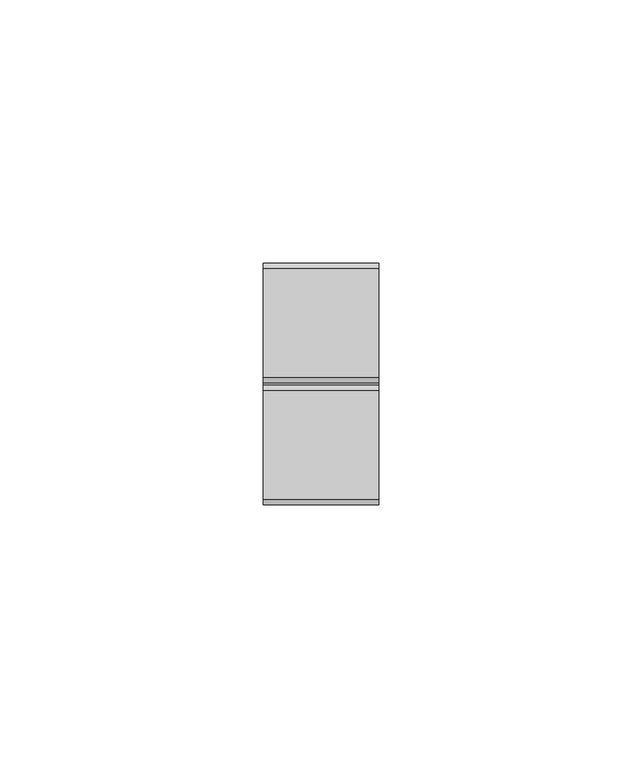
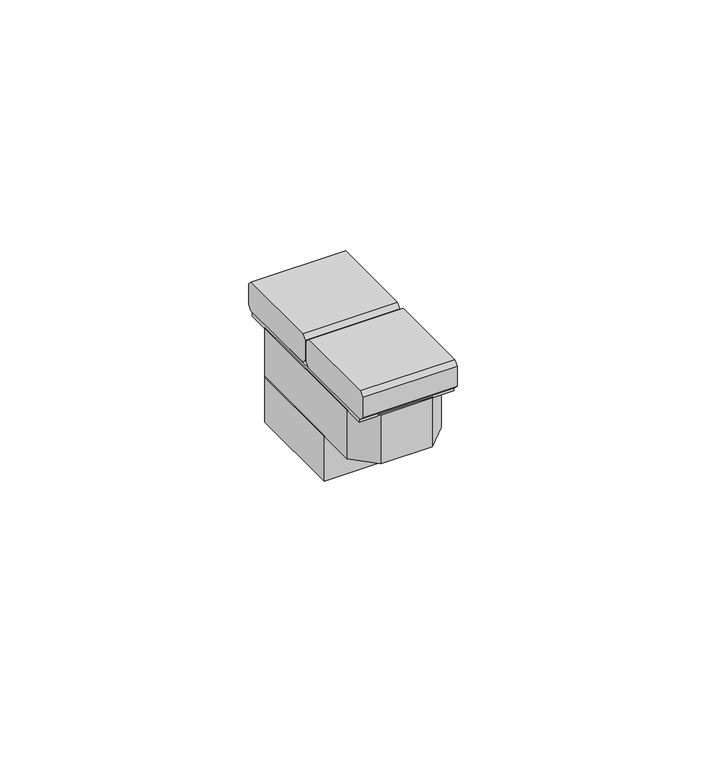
"""IFC4 building model written with IfcOpenShell, lengths in millimetres: proxy geometry, L4036 LI 2 Pulsanti NO 1P 10A : L4036 LI 2 Pulsanti NO 1P 10A."""

from ifc_helpers import new_model, si_unit, frame, origin, origin_with_axes, place, context, project, spatial, polyline, outline, extrude, source, transform, mapped, element, save


def electrical_fixtures_c78ca22e(model_context):
    return source(origin(), model_context, "Body", "SweptSolid", [
        extrude(outline(polyline([(-22.0, 1.0), (-22.9899495, 1.9899495), (-22.9899495, 6.9899495), (-22.0, 7.979899), (-1.2399495, 7.979899), (-0.25, 6.9899495), (-0.25, 1.9899495), (-1.2399495, 1.0), (-22.0, 1.0)])), frame((-11.0, 0.0, 0.0), z_axis=(1.0, 0.0, 0.0), x_axis=(0.0, 1.0, 0.0)), (0.0, 0.0, 1.0), 22.0),
        extrude(outline(polyline([(22.0, 1.0), (1.2399495, 1.0), (0.25, 1.9899495), (0.25, 6.9899495), (1.2399495, 7.979899), (22.0, 7.979899), (22.9899495, 6.9899495), (22.9899495, 1.9899495), (22.0, 1.0)])), frame((-11.0, 0.0, 0.0), z_axis=(1.0, 0.0, 0.0), x_axis=(0.0, 1.0, 0.0)), (0.0, 0.0, 1.0), 22.0),
        extrude(outline(polyline([(-11.0, -7.5), (-11.0, 16.5), (-9.0, 18.5), (9.0, 18.5), (11.0, 16.5), (11.0, -7.5), (-11.0, -7.5)])), frame((0.0, 0.0, -23.0), z_axis=(0.0, 0.0, 1.0), x_axis=(1.0, 0.0, 0.0)), (0.0, 0.0, 1.0), 11.0),
        extrude(outline(polyline([(11.0, -16.5), (6.0, -21.5), (-6.0, -21.5), (-11.0, -16.5), (-11.0, 16.5), (-6.0, 21.5), (6.0, 21.5), (11.0, 16.5), (11.0, -16.5)])), frame((0.0, 0.0, -12.0), z_axis=(0.0, 0.0, 1.0), x_axis=(1.0, 0.0, 0.0)), (0.0, 0.0, 1.0), 12.0),
        extrude(outline(polyline([(11.0, -21.5), (-11.0, -21.5), (-11.0, 21.5), (11.0, 21.5), (11.0, -21.5)])), origin_with_axes(), (0.0, 0.0, 1.0), 1.0),
    ])


if __name__ == "__main__":
    model = new_model("IFC4")
    model_context = context("Model", 3, world=origin())
    ifc_project = project(units=[si_unit("LENGTHUNIT", "METRE", prefix="MILLI")], contexts=[model_context])
    site = spatial("IfcSite", under=ifc_project)
    building = spatial("IfcBuilding", under=site)
    placement = place(None, origin())
    electrical_fixtures_shape = electrical_fixtures_c78ca22e(model_context)
    element("IfcBuildingElementProxy", 1, Name="L4036 LI 2 Pulsanti NO 1P 10A : L4036 LI 2 Pulsanti NO 1P 10A", ObjectType="L4036 LI 2 Pulsanti NO 1P 10A : L4036 LI 2 Pulsanti NO 1P 10A", at=placement, inside=building, context=model_context, shape_type="MappedRepresentation", body=[
        mapped(electrical_fixtures_shape, transform((0.0, 0.0, 0.0), x_axis=(1.0, 0.0, 0.0), y_axis=(0.0, 1.0, 0.0), z_axis=(0.0, 0.0, 1.0))),
    ])
    save(model, "model.ifc")
